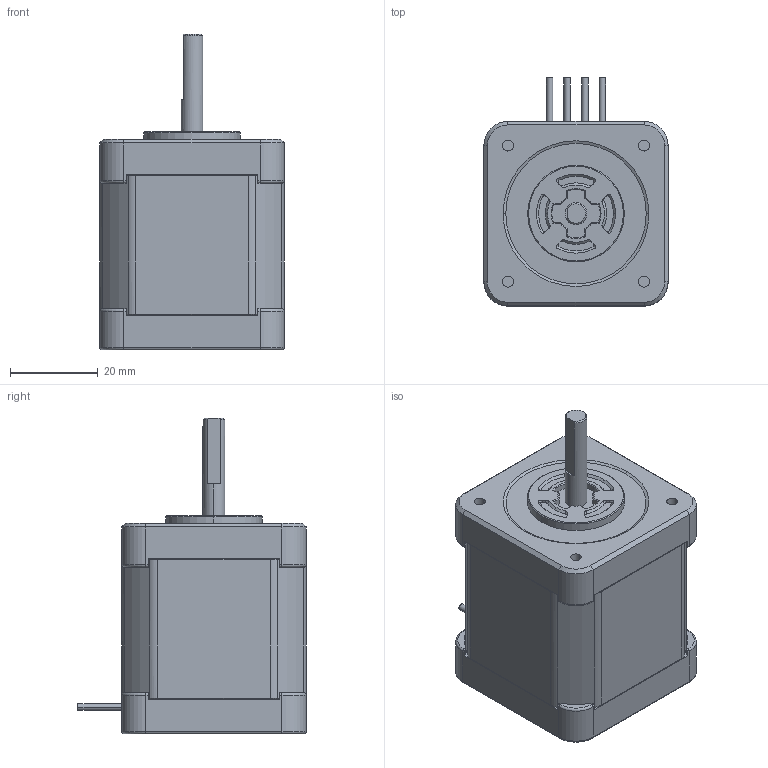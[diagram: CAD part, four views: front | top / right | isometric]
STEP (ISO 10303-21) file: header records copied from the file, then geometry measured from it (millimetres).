
FILE_DESCRIPTION (( 'STEP AP203' ), '1' );
FILE_NAME ('SH1424-5241.STEP', '2012-06-26T11:17:51', ( 'sanyodenki-admin' ), ( '' ), 'SwSTEP 2.0', 'SolidWorks 2011', '' );
FILE_SCHEMA (( 'CONFIG_CONTROL_DESIGN' ));
Length unit declared in the file: millimetre
Products named in the file (1): SH1424-5241
Bounding box: 42 x 52 x 71.95 mm (x, y, z)
Volume: 81868.6 mm3; surface area: 12675.7 mm2
Topology: 1 solids, 1 shells, 339 faces, 836 edges, 514 vertices
Faces by surface type: plane 151, cylinder 103, cone 55, bspline 18, torus 12
Entity records: 10428 total; most frequent: CARTESIAN_POINT 2426, ORIENTED_EDGE 1668, DIRECTION 1657, EDGE_CURVE 834, AXIS2_PLACEMENT_3D 609, VERTEX_POINT 514, VECTOR 439, LINE 439
